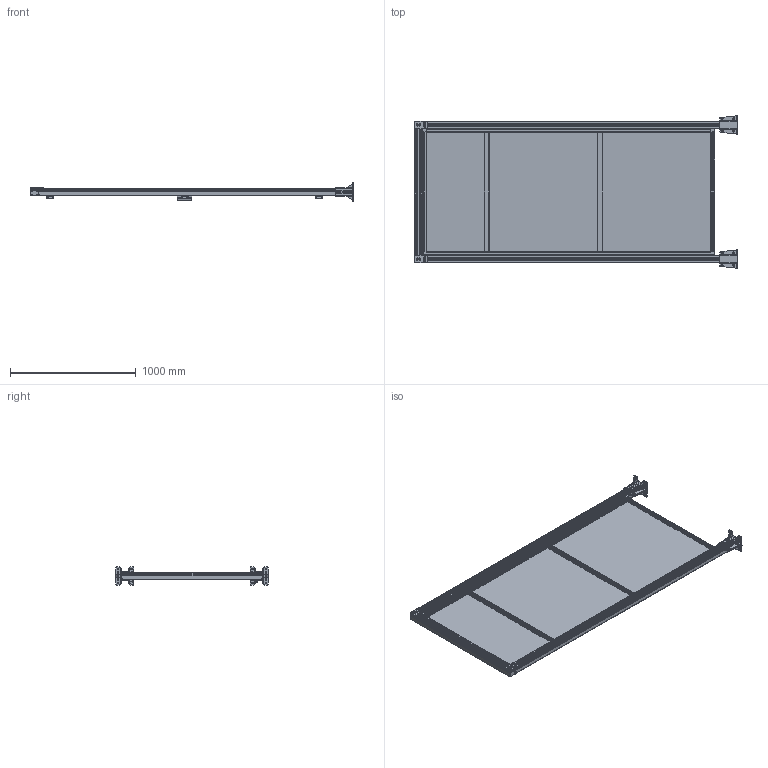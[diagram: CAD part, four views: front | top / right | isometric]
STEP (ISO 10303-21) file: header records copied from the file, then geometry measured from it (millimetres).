
FILE_DESCRIPTION(/* description */ (''),/* implementation_level */ '2;1');
FILE_NAME(/* name */ 'Z:\Marketing\fastline\Porta ad anta singola H=2500.stp',/* time_stamp */ '2021-10-15T15:08:17+02:00',/* author */ ('mpistoia'),/* organization */ (''),/* preprocessor_version */ 'ST-DEVELOPER v17.2',/* originating_system */ 'Autodesk Inventor 2019',/* authorisation */ '');
FILE_SCHEMA (('AUTOMOTIVE_DESIGN { 1 0 10303 214 3 1 1 }'));
Products named in the file (1): Porta ad anta singola H=2500
Bounding box: 2563 x 1211.13 x 146.95 mm (x, y, z)
Volume: 13494722.1 mm3; surface area: 10844392.8 mm2
Topology: 4 solids, 13 shells, 3306 faces, 8906 edges, 5623 vertices
Faces by surface type: plane 1989, cylinder 1016, cone 114, sphere 96, torus 57, bspline 34
Full cylindrical faces by diameter (mm): 3.2 x4, 4.5 x6, 6.35 x2, 6.647 x8, 7 x14, 7.5 x16, 8 x20, 8.5 x2, 9.5 x8, 11 x4, 11.63 x8, 13 x8, 13.2 x16, 14 x2, 18 x2, 21 x2
Entity records: 105957 total; most frequent: CARTESIAN_POINT 21541, DIRECTION 17864, ORIENTED_EDGE 17788, EDGE_CURVE 8894, AXIS2_PLACEMENT_3D 6057, LINE 5750, VECTOR 5750, VERTEX_POINT 5623
